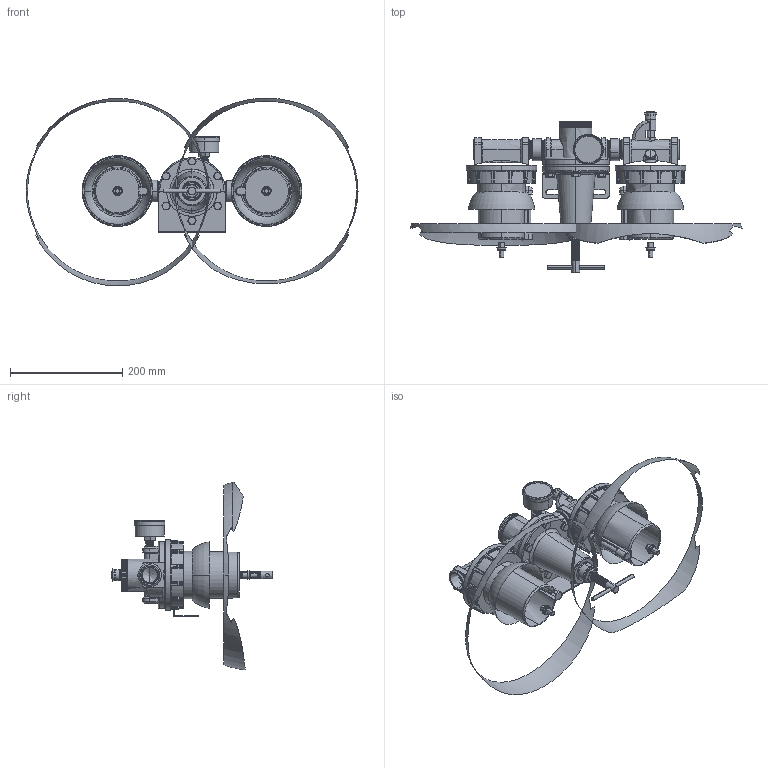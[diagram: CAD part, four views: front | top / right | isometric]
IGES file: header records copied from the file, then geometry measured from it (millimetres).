
Start section: SolidWorks IGES file using analytic representation for surfaces
Global section: file name: C:\Users\Toshiba\Desktop\C628W-08#YB#.IGS; native system: SolidWorks 2014; preprocessor: SolidWorks 2014; author: Toshiba; date: 160216.131215; units: millimetre
Bounding box: 591.81 x 287 x 334.67 mm (x, y, z)
Surface area: 440567.6 mm2 (no closed solid volume)
Topology: 0 solids, 0 shells, 1710 faces, 20964 edges, 20933 vertices
Faces by surface type: bspline 887, revolution 823
